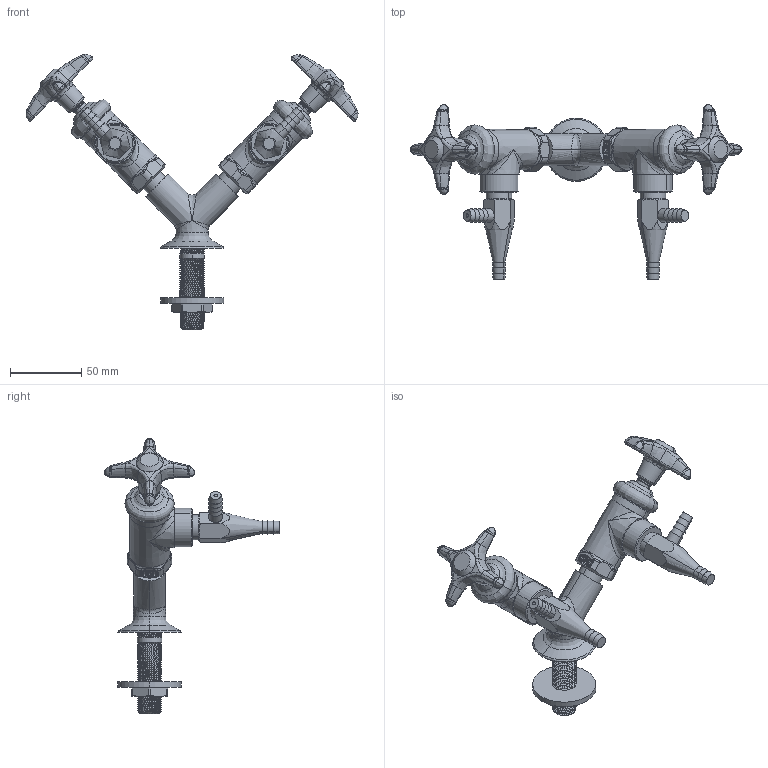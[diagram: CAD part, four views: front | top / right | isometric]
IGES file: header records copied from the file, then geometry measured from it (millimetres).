
Start section:  PTC IGES file: LWV2-C33-65.igs
Global section: file name: LWV2-C33-65.igs; native system: Creo Parametric by PTC Inc.; preprocessor: 2014500; author: usch_engrender; organization: Unknown; date: 20151124.091139; units: inch
Bounding box: 233.61 x 123.15 x 193.73 mm (x, y, z)
Volume: 223155.5 mm3; surface area: 55139.4 mm2
Topology: 1 solids, 8 shells, 1028 faces, 2388 edges, 1417 vertices
Faces by surface type: bspline 570, revolution 458
